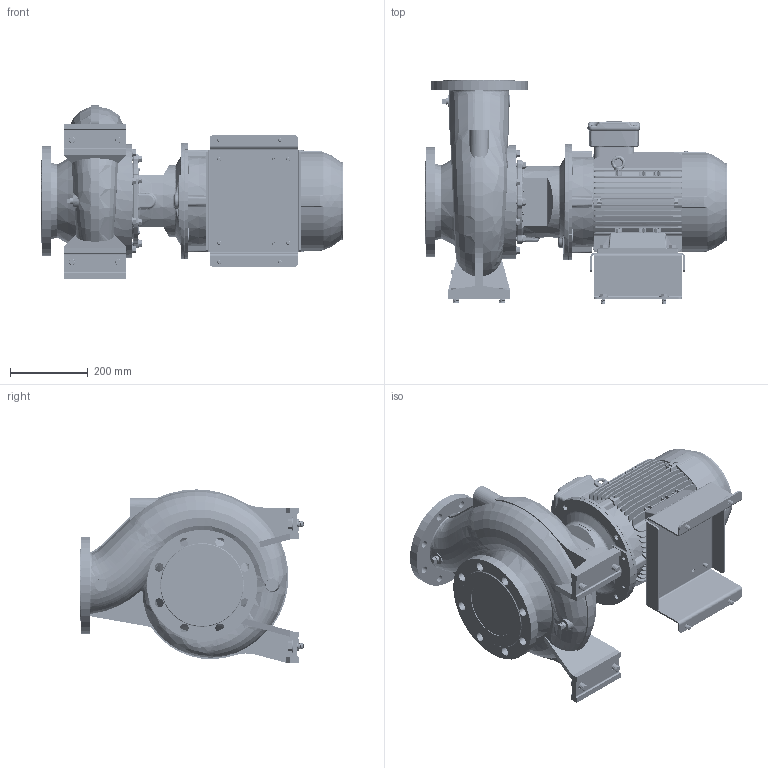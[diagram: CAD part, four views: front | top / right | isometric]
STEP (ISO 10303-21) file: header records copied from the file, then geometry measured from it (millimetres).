
FILE_DESCRIPTION (( 'STEP AP214' ), '1' );
FILE_NAME ('GSD4 125-200_7.5_(132M)_W21.STEP', '2026-07-01T05:14:42', ( '' ), ( '' ), 'SwSTEP 2.0', 'SolidWorks 2024', '' );
FILE_SCHEMA (( 'AUTOMOTIVE_DESIGN' ));
Length unit declared in the file: millimetre
Products named in the file (12): Parametric Flat Washer_M16; Parametric bolt_SFT-A351B; GSD4 125-200_7.5_(132M)_W21; Parametric bolt and washer_SFT-A249B; 140_178 x 118 BP - CGSDA-5245; Parametric bolt_SFT-A253B; Parametric bolt and washer_SFT-A351B; 132M ALIE3_W21T_B35; Parametric Flat Washer_M10; Parametric bolt and washer_SFT-A253B; Parametric bolt_SFT-A249B; 125-200-132M_ﾃﾞﾌｫﾙﾄ
Assembly tree (21 placements, depth 3):
  GSD4 125-200_7.5_(132M)_W21
    125-200-132M_ﾃﾞﾌｫﾙﾄ
    140_178 x 118 BP - CGSDA-5245
    Parametric bolt and washer_SFT-A351B  x4
      Parametric bolt_SFT-A351B
      Parametric Flat Washer_M16
    Parametric bolt and washer_SFT-A249B  x4
      Parametric bolt_SFT-A249B
      Parametric Flat Washer_M10
    Parametric bolt and washer_SFT-A253B  x4
      Parametric bolt_SFT-A253B
      Parametric Flat Washer_M10
    132M ALIE3_W21T_B35
Bounding box: 779.8 x 578 x 446.71 mm (x, y, z)
Volume: 47343006.1 mm3; surface area: 2628477.6 mm2
Topology: 31 solids, 31 shells, 5158 faces, 13377 edges, 8631 vertices
Faces by surface type: plane 2972, cylinder 1283, torus 307, bspline 294, cone 270, sphere 32
Entity records: 190127 total; most frequent: CARTESIAN_POINT 78358, ORIENTED_EDGE 24180, DIRECTION 21586, EDGE_CURVE 12090, LINE 7898, VECTOR 7898, VERTEX_POINT 7812, AXIS2_PLACEMENT_3D 6844
